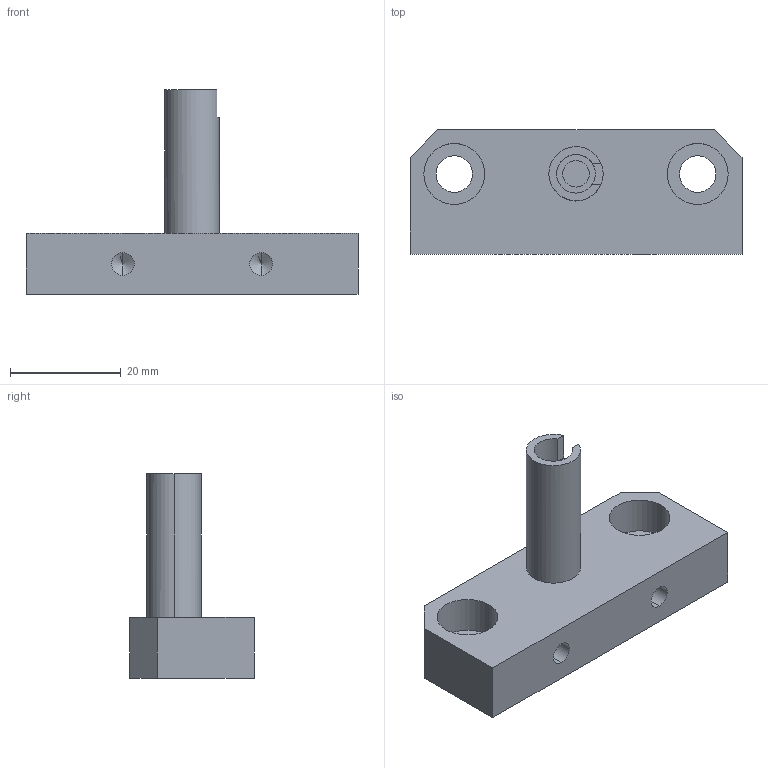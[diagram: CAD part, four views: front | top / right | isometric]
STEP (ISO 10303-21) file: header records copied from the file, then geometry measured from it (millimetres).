
FILE_DESCRIPTION (( 'STEP AP214' ), '1' );
FILE_NAME ('GZ29.10_V1速降阀定位套筒.STEP', '2021-07-06T07:07:10', ( '微软中国' ), ( 'Microsoft' ), 'SwSTEP 2.0', 'SolidWorks 2017', '' );
FILE_SCHEMA (( 'AUTOMOTIVE_DESIGN' ));
Length unit declared in the file: millimetre
Products named in the file (1): GZ29.10_V1厒蔥概隅弇杶芠
Bounding box: 60 x 22.5 x 37 mm (x, y, z)
Volume: 13981.6 mm3; surface area: 6370.6 mm2
Topology: 1 solids, 1 shells, 44 faces, 104 edges, 66 vertices
Faces by surface type: cylinder 22, plane 18, cone 4
Entity records: 1342 total; most frequent: DIRECTION 238, CARTESIAN_POINT 211, ORIENTED_EDGE 200, EDGE_CURVE 100, AXIS2_PLACEMENT_3D 93, VERTEX_POINT 66, EDGE_LOOP 56, VECTOR 52
